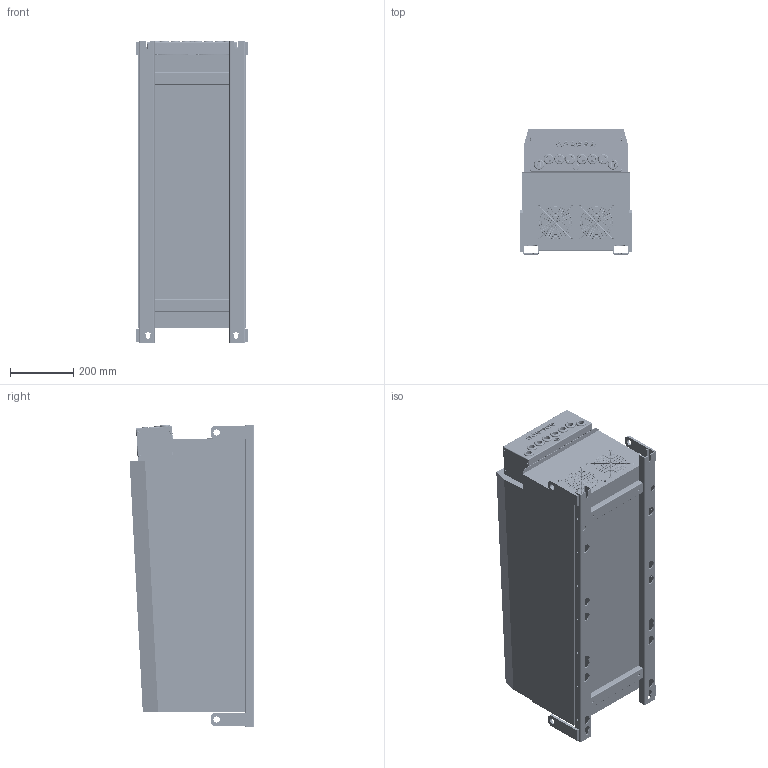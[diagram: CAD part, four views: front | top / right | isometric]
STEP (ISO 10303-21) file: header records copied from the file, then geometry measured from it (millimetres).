
FILE_DESCRIPTION(/* description */ (''),/* implementation_level */ '2;1');
FILE_NAME(/* name */ 'P:\Construction\Filter_Marketing\FN\FN34XX_GLORIA\G\EcosineEVO-G-E2FAJXX.stp',/* time_stamp */ '2017-10-18T11:12:33+02:00',/* author */ ('erika.jenzer'),/* organization */ ('Schaffner EMV AG'),/* preprocessor_version */ 'ST-DEVELOPER v16.5',/* originating_system */ 'Autodesk Inventor 2017',/* authorisation */ '');
FILE_SCHEMA (('AUTOMOTIVE_DESIGN { 1 0 10303 214 3 1 1 }'));
Products named in the file (41): 154811_IAM_000; 154814_IAM_000; 237658; 237725; 154816_IAM_000; 202320; 154835_IAM_000; 237487; 421236; 159668_IAM_000; 238048; 201660; dkb10; DKB10E; dkb150; 237908; 421478; 238049; dkb60; DKB60E-A; 237912; 159346_IAM_000.Rohr- und Leitungsverläufe; 159346_IAM_000.Verlauf01; 159346_IAM_000.Route01; pifhose.1463558667529; 159346_IAM_000.Route02; pifhose.1463558668008; 159346_IAM_000.Route03; pifhose.1463558668346; 165340_IPT_000; 421279; Fan_fingerguard_126979_IPT_000; 417046; 204956; 421666; 162892_IAM_000; 239344; 201667; 203430; 200764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
Assembly tree (86 placements, depth 5):
  154811_IAM_000
    154814_IAM_000
      237658
    237725
    154816_IAM_000
      202320  x2
    154835_IAM_000
      237487
      201660  x2
    421236
      159668_IAM_000
        238048
        201660  x3
      dkb10  x2
      DKB10E
      dkb150  x6
      237908  x2
      237912  x2
    421478
      238049
      dkb60  x6
      DKB60E-A
      237912  x2
      159346_IAM_000.Rohr- und Leitungsverläufe
        159346_IAM_000.Verlauf01
          159346_IAM_000.Route01
          pifhose.1463558667529
          159346_IAM_000.Route02
          pifhose.1463558668008
          159346_IAM_000.Route03
          pifhose.1463558668346
      165340_IPT_000  x6
    421279
      Fan_fingerguard_126979_IPT_000  x2
    417046  x2
    204956  x2
    421666
      162892_IAM_000
        239344
        201667  x6
      203430  x8
      200764  x7
    163275_IPT_000
Bounding box: 353 x 395.48 x 960 mm (x, y, z)
Volume: 98799495.8 mm3; surface area: 3188539.6 mm2
Topology: 122 solids, 122 shells, 6393 faces, 17183 edges, 11136 vertices
Faces by surface type: plane 4472, cylinder 1335, bspline 275, cone 145, torus 134, sphere 32
Full cylindrical faces by diameter (mm): 0.041 x6, 1.5 x16, 2.9 x4, 3.2 x8, 3.7 x4, 4 x26, 4.1 x12, 4.134 x2, 4.2 x25, 4.3 x6, 5 x16, 5.4 x14, 5.5 x7, 5.8 x6, 6 x4, 6.206 x5, 6.5 x9, 7.193 x12, 7.2 x12, 7.3 x6, 7.9 x18, 8 x30, 8.02 x6, 8.376 x2, 9 x2, 9.188 x2, 10 x16, 10.5 x8, 11 x27, 13 x6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
Entity records: 84348 total; most frequent: CARTESIAN_POINT 22215, ORIENTED_EDGE 12370, DIRECTION 12240, EDGE_CURVE 6185, LINE 4756, VECTOR 4756, VERTEX_POINT 4163, AXIS2_PLACEMENT_3D 3742
